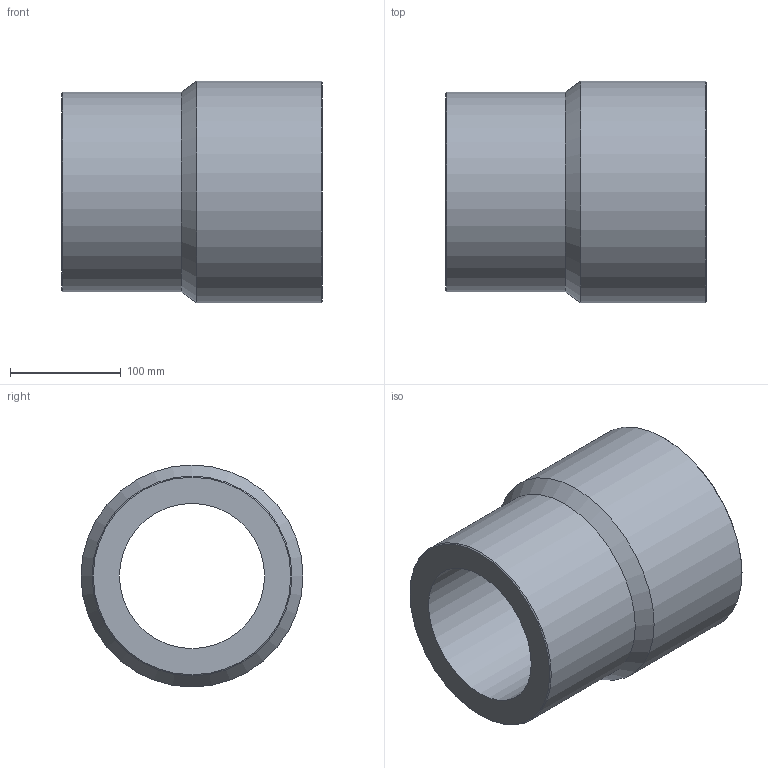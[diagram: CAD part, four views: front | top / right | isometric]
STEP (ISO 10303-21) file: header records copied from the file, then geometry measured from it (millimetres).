
FILE_DESCRIPTION(/* description */ ('Unknown'),/* implementation_level */ '2;1');
FILE_NAME(/* name */ 'RP200180H',/* time_stamp */ '2021-09-16T15:09:16+02:00',/* author */ ('Unknown'),/* organization */ ('Unknown'),/* preprocessor_version */ 'ST-DEVELOPER v16.7',/* originating_system */ 'Solid Edge',/* authorisation */ 'Unknown');
FILE_SCHEMA (('AUTOMOTIVE_DESIGN {1 0 10303 214 3 1 1}'));
Length unit declared in the file: millimetre
Products named in the file (1): RP200180H
Bounding box: 235 x 200 x 200 mm (x, y, z)
Volume: 3203640.7 mm3; surface area: 270669.8 mm2
Topology: 1 solids, 1 shells, 10 faces, 19 edges, 11 vertices
Faces by surface type: cylinder 4, cone 4, plane 2
Full cylindrical faces by diameter (mm): 130.8 x1, 145.2 x1, 180 x1, 200 x1
Entity records: 238 total; most frequent: DIRECTION 42, CARTESIAN_POINT 31, AXIS2_PLACEMENT_3D 21, ORIENTED_EDGE 20, EDGE_LOOP 20, FACE_BOUND 20, EDGE_CURVE 10, VERTEX_POINT 10
